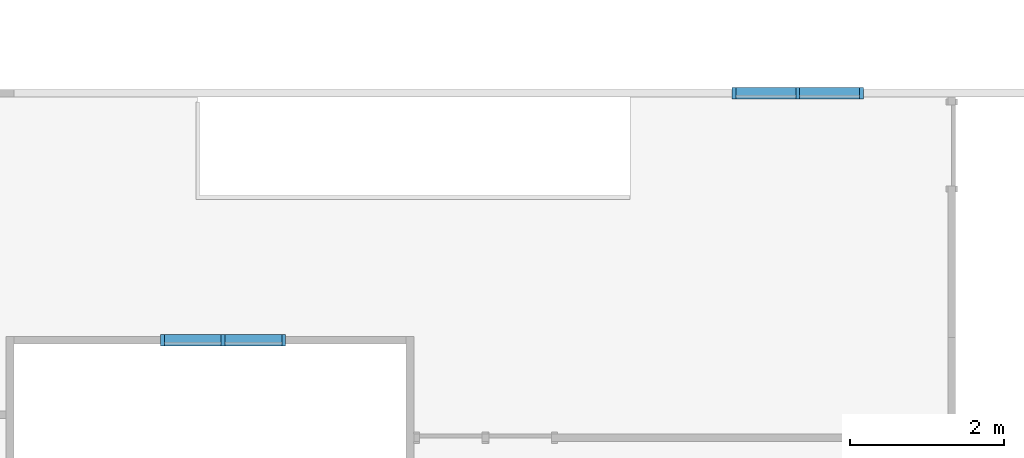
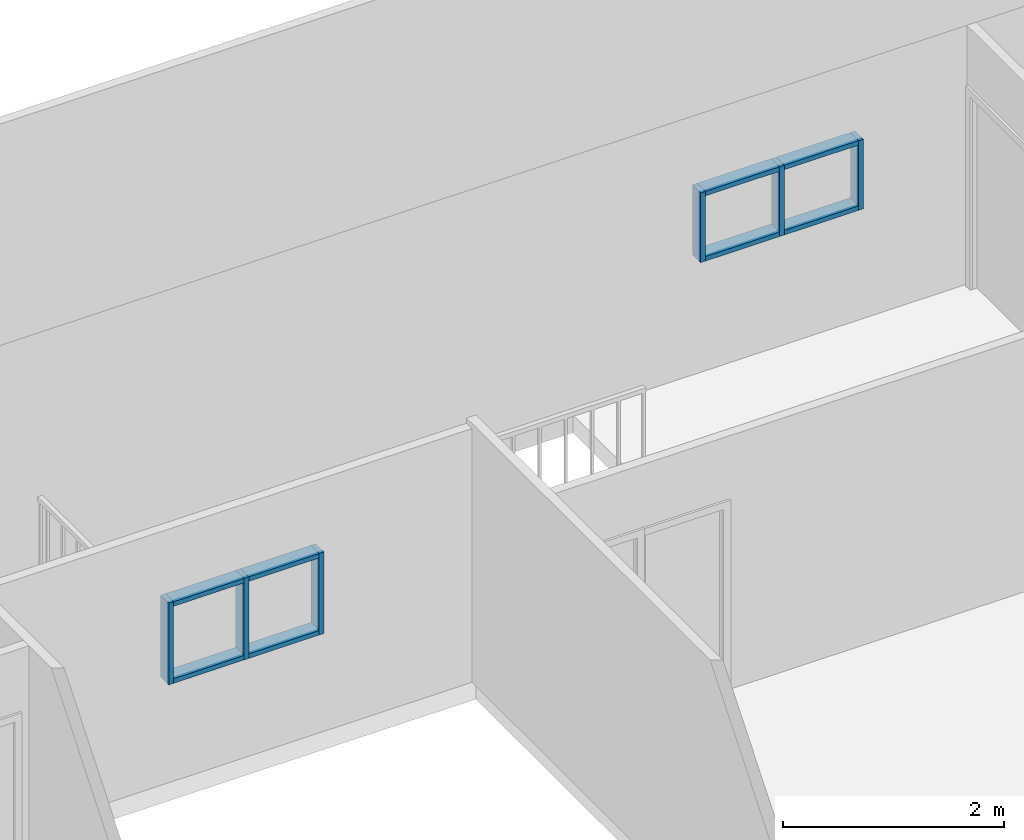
# One storey, part 2 of 14: 14 members, 2 elements without a shape of their own.
"""IFC2X3 building model written with IfcOpenShell, lengths in millimetres."""

from ifc_helpers import new_model, entity, si_unit, converted_unit, derived_unit, direction, frame, frame_2d, origin, origin_2d_with_axis, place, context, subcontext, project, spatial, rectangle, extrude, material, type_object, element, aggregate, save


model = new_model("IFC2X3")

# Units and contexts
model_context = context("Model", 3, precision=0.01, world=origin(), true_north=direction((4.05803320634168e-15, -1.0)))
body_context = subcontext(model_context, "Body", "Model", "MODEL_VIEW")
ifc_project = project(units=[si_unit("LENGTHUNIT", "METRE", prefix="MILLI"), si_unit("AREAUNIT", "SQUARE_METRE"), si_unit("VOLUMEUNIT", "CUBIC_METRE"), converted_unit("PLANEANGLEUNIT", "DEGREE", entity("IfcRatioMeasure", 0.0174532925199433), si_unit("PLANEANGLEUNIT", "RADIAN"), dimensions=[0, 0, 0, 0, 0, 0, 0]), si_unit("MASSUNIT", "GRAM", prefix="KILO"), derived_unit("MASSDENSITYUNIT", [(si_unit("MASSUNIT", "GRAM", prefix="KILO"), 1), (si_unit("LENGTHUNIT", "METRE"), -3)]), si_unit("TIMEUNIT", "SECOND"), si_unit("FREQUENCYUNIT", "HERTZ"), si_unit("THERMODYNAMICTEMPERATUREUNIT", "DEGREE_CELSIUS"), derived_unit("THERMALTRANSMITTANCEUNIT", [(si_unit("MASSUNIT", "GRAM", prefix="KILO"), 1), (si_unit("THERMODYNAMICTEMPERATUREUNIT", "KELVIN"), -1), (si_unit("TIMEUNIT", "SECOND"), -3)]), derived_unit("VOLUMETRICFLOWRATEUNIT", [(si_unit("LENGTHUNIT", "METRE"), 3), (si_unit("TIMEUNIT", "SECOND"), -1)]), si_unit("ELECTRICCURRENTUNIT", "AMPERE"), si_unit("ELECTRICVOLTAGEUNIT", "VOLT"), si_unit("POWERUNIT", "WATT"), si_unit("FORCEUNIT", "NEWTON", prefix="KILO"), si_unit("ILLUMINANCEUNIT", "LUX"), si_unit("LUMINOUSFLUXUNIT", "LUMEN"), si_unit("LUMINOUSINTENSITYUNIT", "CANDELA"), derived_unit("USERDEFINED", [(si_unit("MASSUNIT", "GRAM", prefix="KILO"), -1), (si_unit("LENGTHUNIT", "METRE"), -2), (si_unit("TIMEUNIT", "SECOND"), 3), (si_unit("LUMINOUSFLUXUNIT", "LUMEN"), 1)]), derived_unit("LINEARVELOCITYUNIT", [(si_unit("LENGTHUNIT", "METRE"), 1), (si_unit("TIMEUNIT", "SECOND"), -1)]), si_unit("PRESSUREUNIT", "PASCAL"), derived_unit("USERDEFINED", [(si_unit("LENGTHUNIT", "METRE"), -2), (si_unit("MASSUNIT", "GRAM", prefix="KILO"), 1), (si_unit("TIMEUNIT", "SECOND"), -2)])], contexts=[model_context])

# Site, building, storey
site_placement = place(None, frame((927466.849349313, 583801.882853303, 0.0), z_axis=(0.0, 0.0, 1.0), x_axis=(-1.0, 0.0, 0.0)))
site = spatial("IfcSite", under=ifc_project, at=site_placement, Name="Surface", CompositionType="ELEMENT")
building_placement = place(site_placement, origin())
building = spatial("IfcBuilding", under=site, at=building_placement, CompositionType="ELEMENT")
storey_placement = place(building_placement, frame((0.0, 0.0, 48170.0)))
storey = spatial("IfcBuildingStorey", under=building, at=storey_placement, Name="First floor", CompositionType="ELEMENT", Elevation=48170.0)

# Curtain wall, members
curtain_wall_type = type_object("IfcCurtainWallType", Name="Curtain Wall:Storefront", PredefinedType="NOTDEFINED")
curtain_wall_1_placement = place(storey_placement, frame((0.0, 0.0, -48170.0)))
curtain_wall_1 = element("IfcCurtainWall", 1, at=curtain_wall_1_placement, inside=storey, type_object=curtain_wall_type, Name="Curtain Wall:Storefront", ObjectType="Curtain Wall:Storefront")
ifc_material = material(Name="Aluminium")
member_1_placement = place(curtain_wall_1_placement, frame((0.0, 0.0, 48170.0)))
member_1 = element("IfcMember", 2, at=member_1_placement, material=ifc_material, Name="Curtain Wall:Storefront:8486", ObjectType="Curtain Wall:Storefront:8486", context=body_context, shape_type="SweptSolid", body=[
    extrude(rectangle(XDim=49.9999999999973, YDim=150.000000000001, at=frame_2d((4.33075797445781e-12, 4.33431068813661e-12), x_axis=(1.0, 0.0))), frame((-106897.93727682, 15157.4703266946, 1975.0), z_axis=(-1.0, 0.0, 0.0), x_axis=(0.0, 0.0, -1.0)), (0.0, 0.0, 1.0), 734.99999999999),
])
member_2_placement = place(curtain_wall_1_placement, frame((0.0, 0.0, 48170.0)))
member_2 = element("IfcMember", 3, at=member_2_placement, material=ifc_material, Name="Curtain Wall:Storefront:8486", ObjectType="Curtain Wall:Storefront:8486", context=body_context, shape_type="SweptSolid", body=[
    extrude(rectangle(XDim=49.9999999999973, YDim=150.000000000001, at=frame_2d((4.33075797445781e-12, 4.33431068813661e-12), x_axis=(1.0, 0.0))), frame((-107682.93727682, 15157.4703266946, 1975.0), z_axis=(-1.0, 0.0, 0.0), x_axis=(0.0, 0.0, -1.0)), (0.0, 0.0, 1.0), 734.99999999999),
])
member_3_placement = place(curtain_wall_1_placement, frame((0.0, 0.0, 48170.0)))
member_3 = element("IfcMember", 4, at=member_3_placement, material=ifc_material, Name="Curtain Wall:Storefront:8486", ObjectType="Curtain Wall:Storefront:8486", context=body_context, shape_type="SweptSolid", body=[
    extrude(rectangle(XDim=49.9999999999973, YDim=150.000000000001, at=frame_2d((4.33075797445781e-12, 4.33431068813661e-12), x_axis=(1.0, 0.0))), frame((-108417.93727682, 15157.4703266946, 1125.0), z_axis=(1.0, 0.0, 0.0), x_axis=(0.0, 0.0, -1.0)), (0.0, 0.0, 1.0), 735.000000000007),
])
member_4_placement = place(curtain_wall_1_placement, frame((0.0, 0.0, 48170.0)))
member_4 = element("IfcMember", 5, at=member_4_placement, material=ifc_material, Name="Curtain Wall:Storefront:8486", ObjectType="Curtain Wall:Storefront:8486", context=body_context, shape_type="SweptSolid", body=[
    extrude(rectangle(XDim=49.9999999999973, YDim=150.000000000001, at=frame_2d((4.33075797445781e-12, 4.33431068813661e-12), x_axis=(1.0, 0.0))), frame((-107632.93727682, 15157.4703266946, 1125.0), z_axis=(1.0, 0.0, 0.0), x_axis=(0.0, 0.0, -1.0)), (0.0, 0.0, 1.0), 735.000000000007),
])
member_5_placement = place(curtain_wall_1_placement, frame((0.0, 0.0, 48170.0)))
member_5 = element("IfcMember", 6, at=member_5_placement, material=ifc_material, Name="Curtain Wall:Storefront:8486", ObjectType="Curtain Wall:Storefront:8486", context=body_context, shape_type="SweptSolid", body=[
    extrude(rectangle(XDim=50.000000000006, YDim=150.000000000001, at=frame_2d((-8.66329230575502e-12, 0.0), x_axis=(1.0, 0.0))), frame((-106872.93727682, 15157.4703266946, 1100.0), z_axis=(0.0, 0.0, 1.0), x_axis=(-1.0, 0.0, 0.0)), (0.0, 0.0, 1.0), 899.999999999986),
])
member_6_placement = place(curtain_wall_1_placement, frame((0.0, 0.0, 48170.0)))
member_6 = element("IfcMember", 7, at=member_6_placement, material=ifc_material, Name="Curtain Wall:Storefront:8486", ObjectType="Curtain Wall:Storefront:8486", context=body_context, shape_type="SweptSolid", body=[
    extrude(rectangle(XDim=50.000000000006, YDim=150.000000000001, at=frame_2d((-8.66329230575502e-12, 0.0), x_axis=(1.0, 0.0))), frame((-108442.93727682, 15157.4703266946, 2000.0), z_axis=(0.0, 0.0, -1.0), x_axis=(-1.0, 0.0, 0.0)), (0.0, 0.0, 1.0), 899.999999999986),
])
member_7_placement = place(curtain_wall_1_placement, frame((0.0, 0.0, 48170.0)))
member_7 = element("IfcMember", 8, at=member_7_placement, material=ifc_material, Name="Curtain Wall:Storefront:8486", ObjectType="Curtain Wall:Storefront:8486", context=body_context, shape_type="SweptSolid", body=[
    extrude(rectangle(XDim=49.9999999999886, YDim=150.000000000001, at=origin_2d_with_axis()), frame((-107657.93727682, 15157.4703266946, 1100.0), z_axis=(0.0, 0.0, 1.0), x_axis=(-1.0, 0.0, 0.0)), (0.0, 0.0, 1.0), 899.999999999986),
])
aggregate(curtain_wall_1, [member_1, member_2, member_3, member_4, member_5, member_6, member_7])

curtain_wall_2_placement = place(storey_placement, frame((0.0, 0.0, -48170.0)))
curtain_wall_2 = element("IfcCurtainWall", 9, at=curtain_wall_2_placement, inside=storey, type_object=curtain_wall_type, Name="Curtain Wall:Storefront", ObjectType="Curtain Wall:Storefront")
member_8_placement = place(curtain_wall_2_placement, frame((0.0, 0.0, 48170.0)))
member_8 = element("IfcMember", 10, at=member_8_placement, material=ifc_material, Name="Curtain Wall:Storefront:8486", ObjectType="Curtain Wall:Storefront:8486", context=body_context, shape_type="SweptSolid", body=[
    extrude(rectangle(XDim=49.9999999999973, YDim=150.000000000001, at=frame_2d((4.33253433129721e-12, 6.49436060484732e-12), x_axis=(1.0, 0.0))), frame((-114297.937276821, 11958.2777512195, 1975.0), z_axis=(-1.0, 0.0, 0.0), x_axis=(0.0, 0.0, -1.0)), (0.0, 0.0, 1.0), 774.999999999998),
])
member_9_placement = place(curtain_wall_2_placement, frame((0.0, 0.0, 48170.0)))
member_9 = element("IfcMember", 11, at=member_9_placement, material=ifc_material, Name="Curtain Wall:Storefront:8486", ObjectType="Curtain Wall:Storefront:8486", context=body_context, shape_type="SweptSolid", body=[
    extrude(rectangle(XDim=49.9999999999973, YDim=150.000000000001, at=frame_2d((4.33075797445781e-12, 4.33431068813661e-12), x_axis=(1.0, 0.0))), frame((-115122.937276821, 11958.2777512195, 1975.0), z_axis=(-1.0, 0.0, 0.0), x_axis=(0.0, 0.0, -1.0)), (0.0, 0.0, 1.0), 774.999999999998),
])
member_10_placement = place(curtain_wall_2_placement, frame((0.0, 0.0, 48170.0)))
member_10 = element("IfcMember", 12, at=member_10_placement, material=ifc_material, Name="Curtain Wall:Storefront:8486", ObjectType="Curtain Wall:Storefront:8486", context=body_context, shape_type="SweptSolid", body=[
    extrude(rectangle(XDim=49.9999999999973, YDim=150.000000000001, at=frame_2d((-4.33075797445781e-12, 4.33431068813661e-12), x_axis=(1.0, 0.0))), frame((-115897.937276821, 11958.2777512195, 1254.5108726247), z_axis=(1.0, 0.0, 0.0), x_axis=(0.0, 0.0, -1.0)), (0.0, 0.0, 1.0), 774.999999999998),
])
member_11_placement = place(curtain_wall_2_placement, frame((0.0, 0.0, 48170.0)))
member_11 = element("IfcMember", 13, at=member_11_placement, material=ifc_material, Name="Curtain Wall:Storefront:8486", ObjectType="Curtain Wall:Storefront:8486", context=body_context, shape_type="SweptSolid", body=[
    extrude(rectangle(XDim=49.9999999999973, YDim=150.000000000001, at=frame_2d((-4.33253433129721e-12, 4.33431068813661e-12), x_axis=(1.0, 0.0))), frame((-115072.937276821, 11958.2777512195, 1254.5108726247), z_axis=(1.0, 0.0, 0.0), x_axis=(0.0, 0.0, -1.0)), (0.0, 0.0, 1.0), 774.999999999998),
])
member_12_placement = place(curtain_wall_2_placement, frame((0.0, 0.0, 48170.0)))
member_12 = element("IfcMember", 14, at=member_12_placement, material=ifc_material, Name="Curtain Wall:Storefront:8486", ObjectType="Curtain Wall:Storefront:8486", context=body_context, shape_type="SweptSolid", body=[
    extrude(rectangle(XDim=50.000000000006, YDim=150.000000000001, at=frame_2d((-8.66329230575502e-12, 0.0), x_axis=(1.0, 0.0))), frame((-114272.937276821, 11958.2777512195, 1229.5108726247), z_axis=(0.0, 0.0, 1.0), x_axis=(-1.0, 0.0, 0.0)), (0.0, 0.0, 1.0), 770.489127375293),
])
member_13_placement = place(curtain_wall_2_placement, frame((0.0, 0.0, 48170.0)))
member_13 = element("IfcMember", 15, at=member_13_placement, material=ifc_material, Name="Curtain Wall:Storefront:8486", ObjectType="Curtain Wall:Storefront:8486", context=body_context, shape_type="SweptSolid", body=[
    extrude(rectangle(XDim=50.000000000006, YDim=150.000000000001, at=frame_2d((8.66329230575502e-12, 0.0), x_axis=(1.0, 0.0))), frame((-115922.937276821, 11958.2777512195, 2000.0), z_axis=(0.0, 0.0, -1.0), x_axis=(-1.0, 0.0, 0.0)), (0.0, 0.0, 1.0), 770.489127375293),
])
member_14_placement = place(curtain_wall_2_placement, frame((0.0, 0.0, 48170.0)))
member_14 = element("IfcMember", 16, at=member_14_placement, material=ifc_material, Name="Curtain Wall:Storefront:8486", ObjectType="Curtain Wall:Storefront:8486", context=body_context, shape_type="SweptSolid", body=[
    extrude(rectangle(XDim=49.9999999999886, YDim=150.000000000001, at=frame_2d((1.732658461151e-11, 0.0), x_axis=(1.0, 0.0))), frame((-115097.937276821, 11958.2777512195, 1229.5108726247), z_axis=(0.0, 0.0, 1.0), x_axis=(-1.0, 0.0, 0.0)), (0.0, 0.0, 1.0), 770.489127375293),
])
aggregate(curtain_wall_2, [member_8, member_9, member_10, member_11, member_12, member_13, member_14])

save(model, "model.ifc")
